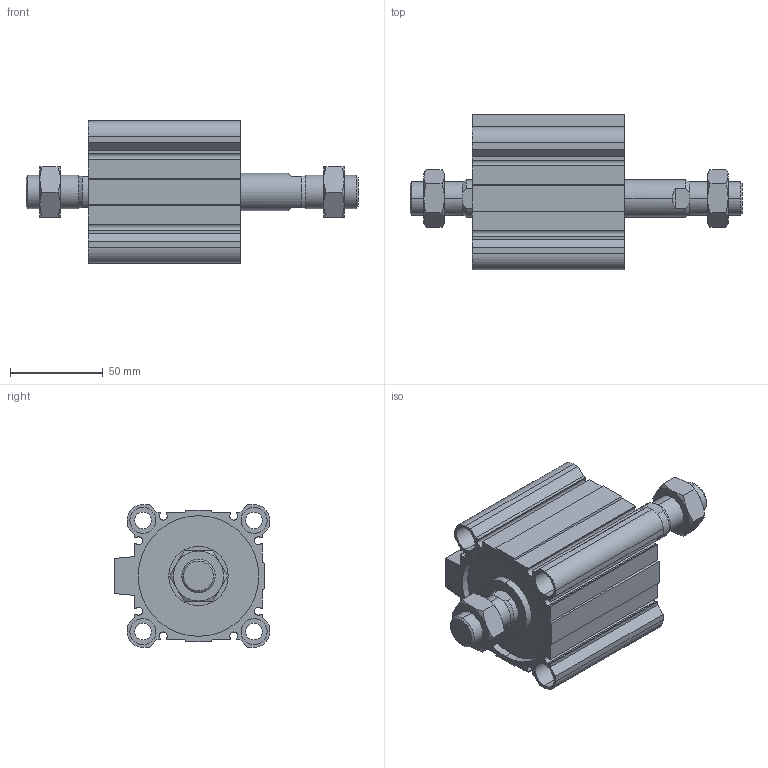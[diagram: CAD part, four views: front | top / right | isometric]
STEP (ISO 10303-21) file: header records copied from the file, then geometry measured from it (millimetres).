
FILE_DESCRIPTION (( 'STEP AP203' ), '1' );
FILE_NAME ('CCMB63-30M-P.STEP', '2020-08-10T11:50:02', ( '' ), ( '' ), 'SwSTEP 2.0', 'SolidWorks 2019', '' );
FILE_SCHEMA (( 'CONFIG_CONTROL_DESIGN' ));
Length unit declared in the file: millimetre
Products named in the file (1): CCMB63-30M-P
Bounding box: 179 x 84 x 77 mm (x, y, z)
Volume: 328785.5 mm3; surface area: 100725.1 mm2
Topology: 4 solids, 4 shells, 232 faces, 570 edges, 364 vertices
Faces by surface type: plane 110, cylinder 78, cone 44
Entity records: 7569 total; most frequent: CARTESIAN_POINT 1939, DIRECTION 1176, ORIENTED_EDGE 1140, EDGE_CURVE 570, AXIS2_PLACEMENT_3D 437, VERTEX_POINT 364, LINE 302, VECTOR 302
